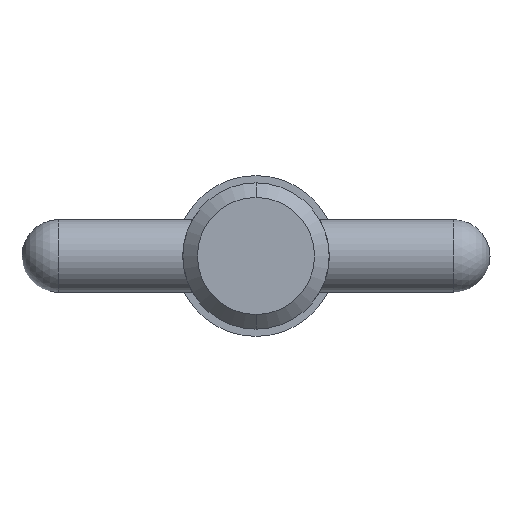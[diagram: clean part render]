
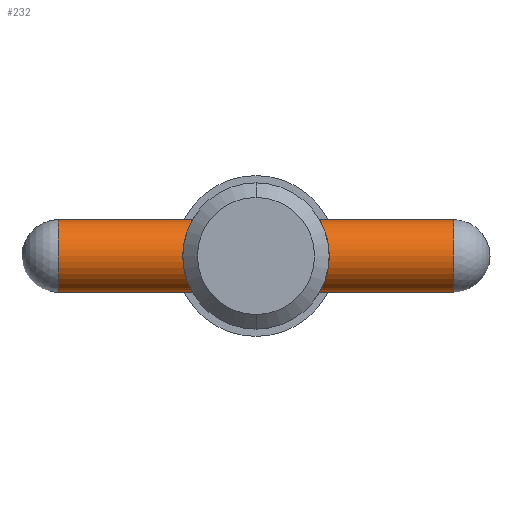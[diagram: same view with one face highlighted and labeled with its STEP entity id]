
A CAD part, left-side view. The second image highlights one B-rep face of the part: STEP entity #232.
In plain terms, the highlighted cylindrical face has radius 1.98 mm (diameter 3.96 mm), a partial arc.
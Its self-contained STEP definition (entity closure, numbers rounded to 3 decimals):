
#66 = VERTEX_POINT ( 'NONE', #126 ) ;
#109 = CARTESIAN_POINT ( 'NONE',  ( 0., 12.7, -1.98 ) ) ;
#126 = CARTESIAN_POINT ( 'NONE',  ( 0., 10.72, -1.98 ) ) ;
#153 = ORIENTED_EDGE ( 'NONE', *, *, #282, .T. ) ;
#170 = CARTESIAN_POINT ( 'NONE',  ( 0., 10.72, 0. ) ) ;
#229 = DIRECTION ( 'NONE',  ( 0., 0., -1. ) ) ;
#232 = ADVANCED_FACE ( 'NONE', ( #534 ), #852, .T. ) ;
#253 = VERTEX_POINT ( 'NONE', #434 ) ;
#282 = EDGE_CURVE ( 'NONE', #253, #66, #396, .T. ) ;
#351 = ORIENTED_EDGE ( 'NONE', *, *, #1015, .T. ) ;
#385 = CARTESIAN_POINT ( 'NONE',  ( 0., 12.7, 0. ) ) ;
#396 = CIRCLE ( 'NONE', #945, 1.98 ) ;
#418 = DIRECTION ( 'NONE',  ( 0., -1., 0. ) ) ;
#434 = CARTESIAN_POINT ( 'NONE',  ( 0., 10.72, 1.98 ) ) ;
#435 = LINE ( 'NONE', #109, #956 ) ;
#453 = EDGE_CURVE ( 'NONE', #253, #879, #668, .T. ) ;
#460 = DIRECTION ( 'NONE',  ( 0., -1., 0. ) ) ;
#511 = DIRECTION ( 'NONE',  ( 0., -1., 0. ) ) ;
#528 = CARTESIAN_POINT ( 'NONE',  ( 0., -10.72, -1.98 ) ) ;
#529 = DIRECTION ( 'NONE',  ( 0., 1., 0. ) ) ;
#534 = FACE_OUTER_BOUND ( 'NONE', #702, .T. ) ;
#535 = CARTESIAN_POINT ( 'NONE',  ( 0., -10.72, 0. ) ) ;
#555 = ORIENTED_EDGE ( 'NONE', *, *, #844, .T. ) ;
#561 = VERTEX_POINT ( 'NONE', #528 ) ;
#638 = ORIENTED_EDGE ( 'NONE', *, *, #453, .F. ) ;
#663 = DIRECTION ( 'NONE',  ( 0., 0., -1. ) ) ;
#668 = LINE ( 'NONE', #742, #687 ) ;
#687 = VECTOR ( 'NONE', #460, 1000. ) ;
#702 = EDGE_LOOP ( 'NONE', ( #638, #153, #351, #555 ) ) ;
#734 = AXIS2_PLACEMENT_3D ( 'NONE', #535, #529, #848 ) ;
#742 = CARTESIAN_POINT ( 'NONE',  ( 0., 12.7, 1.98 ) ) ;
#787 = CIRCLE ( 'NONE', #734, 1.98 ) ;
#844 = EDGE_CURVE ( 'NONE', #561, #879, #787, .T. ) ;
#848 = DIRECTION ( 'NONE',  ( 0., 0., -1. ) ) ;
#852 = CYLINDRICAL_SURFACE ( 'NONE', #892, 1.98 ) ;
#879 = VERTEX_POINT ( 'NONE', #921 ) ;
#892 = AXIS2_PLACEMENT_3D ( 'NONE', #385, #1011, #229 ) ;
#921 = CARTESIAN_POINT ( 'NONE',  ( 0., -10.72, 1.98 ) ) ;
#945 = AXIS2_PLACEMENT_3D ( 'NONE', #170, #418, #663 ) ;
#956 = VECTOR ( 'NONE', #511, 1000. ) ;
#1011 = DIRECTION ( 'NONE',  ( 0., -1., 0. ) ) ;
#1015 = EDGE_CURVE ( 'NONE', #66, #561, #435, .T. ) ;
